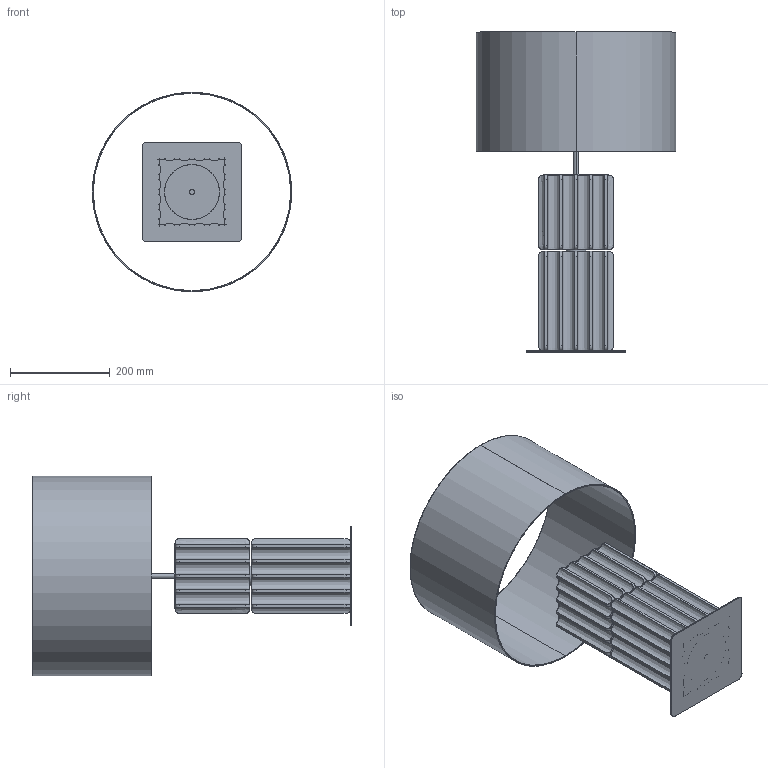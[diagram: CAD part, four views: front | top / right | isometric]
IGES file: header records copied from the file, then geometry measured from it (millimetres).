
Start section: SolidWorks IGES file using analytic representation for surfaces
Global section: file name: C:\Users\Agustin\Desktop\ENERO 2025\DENA CUADRADA\PIRE_NAC140_2.IGS; native system: SolidWorks 2018; preprocessor: SolidWorks 2018; author: Agustin; date: 250305.175737; units: millimetre
Bounding box: 400 x 642 x 400 mm (x, y, z)
Surface area: 1268443.4 mm2 (no closed solid volume)
Topology: 0 solids, 0 shells, 239 faces, 5484 edges, 5484 vertices
Faces by surface type: revolution 156, bspline 83
